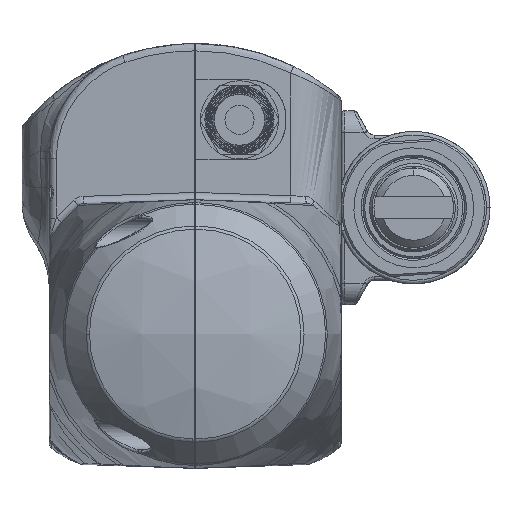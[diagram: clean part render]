
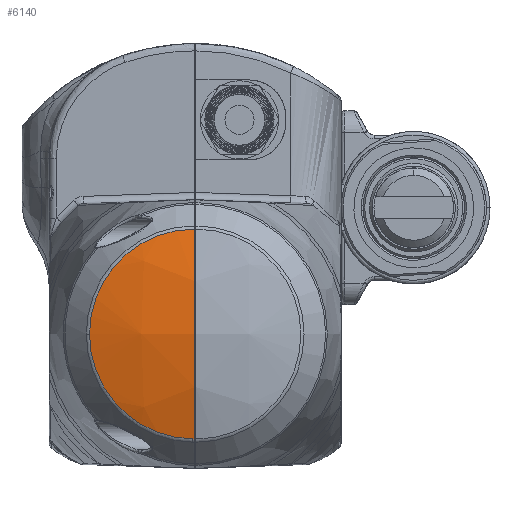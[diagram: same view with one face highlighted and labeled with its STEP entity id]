
A CAD part, front view. The second image highlights one B-rep face of the part: STEP entity #6140.
In plain terms, the highlighted spherical face has radius 93.609 mm.
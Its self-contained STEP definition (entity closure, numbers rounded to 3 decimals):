
#2095 = EDGE_LOOP ( 'NONE', ( #5047, #5048, #5049, #5051 ) ) ;
#3529 = VERTEX_POINT ( 'NONE', #14401 ) ;
#3530 = VERTEX_POINT ( 'NONE', #14402 ) ;
#3676 = VERTEX_POINT ( 'NONE', #14548 ) ;
#3678 = VERTEX_POINT ( 'NONE', #14550 ) ;
#4542 = EDGE_CURVE ( 'NONE', #3529, #3530, #10750, .T. ) ;
#5047 = ORIENTED_EDGE ( 'NONE', *, *, #6047, .T. ) ;
#5048 = ORIENTED_EDGE ( 'NONE', *, *, #4542, .T. ) ;
#5049 = ORIENTED_EDGE ( 'NONE', *, *, #6050, .T. ) ;
#5051 = ORIENTED_EDGE ( 'NONE', *, *, #6051, .T. ) ;
#6047 = EDGE_CURVE ( 'NONE', #3676, #3529, #10805, .T. ) ;
#6050 = EDGE_CURVE ( 'NONE', #3530, #3678, #19897, .T. ) ;
#6051 = EDGE_CURVE ( 'NONE', #3678, #3676, #10808, .T. ) ;
#6140 = ADVANCED_FACE ( 'NONE', ( #23505 ), #23509, .T. ) ;
#10750 = CIRCLE ( 'NONE', #13781, 28.904 ) ;
#10805 = CIRCLE ( 'NONE', #23434, 28.904 ) ;
#10808 = CIRCLE ( 'NONE', #23443, 93.609 ) ;
#13781 = AXIS2_PLACEMENT_3D ( 'NONE', #17092, #17093, #17094 ) ;
#14401 = CARTESIAN_POINT ( 'NONE',  ( -89.304, -161.926, -34.8 ) ) ;
#14402 = CARTESIAN_POINT ( 'NONE',  ( -60.93, -161.926, -63.7 ) ) ;
#14548 = CARTESIAN_POINT ( 'NONE',  ( -60.4, -161.926, -5.896 ) ) ;
#14550 = CARTESIAN_POINT ( 'NONE',  ( -60.4, -161.926, -63.704 ) ) ;
#17092 = CARTESIAN_POINT ( 'NONE',  ( -60.4, -161.926, -34.8 ) ) ;
#17093 = DIRECTION ( 'NONE',  ( 0., -1., 0. ) ) ;
#17094 = DIRECTION ( 'NONE',  ( -1., 0., 0. ) ) ;
#19897 = B_SPLINE_CURVE_WITH_KNOTS ( 'NONE', 3,
 ( #25268, #25269, #25270, #25271 ),
 .UNSPECIFIED., .F., .F.,
 ( 4, 4 ),
 ( 0., 1. ),
 .UNSPECIFIED. ) ;
#23434 = AXIS2_PLACEMENT_3D ( 'NONE', #25259, #25260, #25261 ) ;
#23443 = AXIS2_PLACEMENT_3D ( 'NONE', #25272, #25273, #25274 ) ;
#23505 = FACE_OUTER_BOUND ( 'NONE', #2095, .T. ) ;
#23508 = AXIS2_PLACEMENT_3D ( 'NONE', #26423, #26424, #26425 ) ;
#23509 = SPHERICAL_SURFACE ( 'NONE', #23508, 93.609 ) ;
#25259 = CARTESIAN_POINT ( 'NONE',  ( -60.4, -161.926, -34.8 ) ) ;
#25260 = DIRECTION ( 'NONE',  ( 0., -1., 0. ) ) ;
#25261 = DIRECTION ( 'NONE',  ( -1., 0., 0. ) ) ;
#25268 = CARTESIAN_POINT ( 'NONE',  ( -60.93, -161.926, -63.7 ) ) ;
#25269 = CARTESIAN_POINT ( 'NONE',  ( -60.753, -161.926, -63.703 ) ) ;
#25270 = CARTESIAN_POINT ( 'NONE',  ( -60.577, -161.926, -63.704 ) ) ;
#25271 = CARTESIAN_POINT ( 'NONE',  ( -60.4, -161.926, -63.704 ) ) ;
#25272 = CARTESIAN_POINT ( 'NONE',  ( -60.4, -72.891, -34.8 ) ) ;
#25273 = DIRECTION ( 'NONE',  ( -1., 0., 0. ) ) ;
#25274 = DIRECTION ( 'NONE',  ( 0., -1., 0. ) ) ;
#26423 = CARTESIAN_POINT ( 'NONE',  ( -60.4, -72.891, -34.8 ) ) ;
#26424 = DIRECTION ( 'NONE',  ( 0.95, -0.312, 0. ) ) ;
#26425 = DIRECTION ( 'NONE',  ( -0.312, -0.95, 0. ) ) ;
